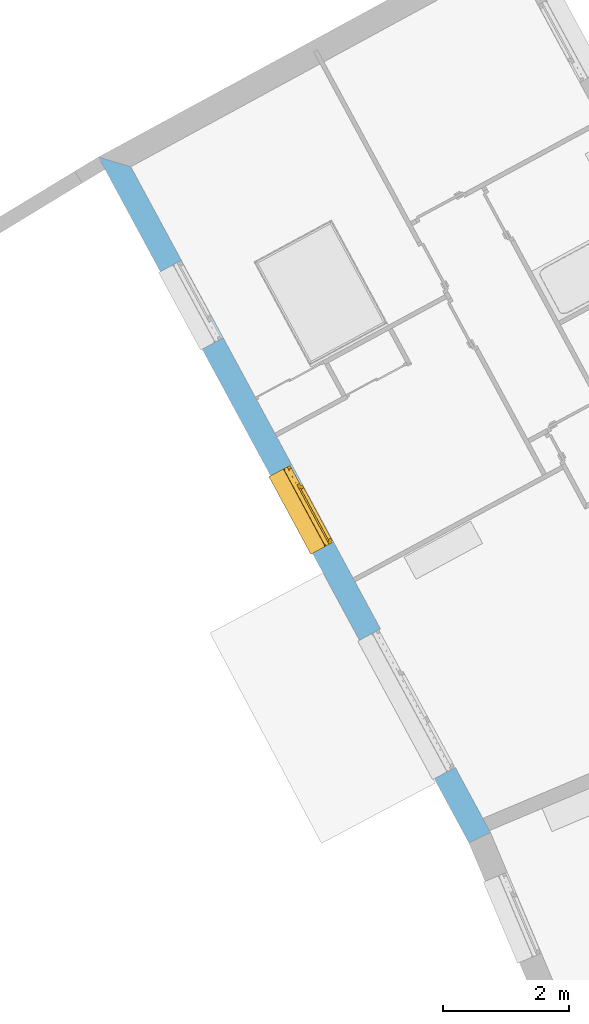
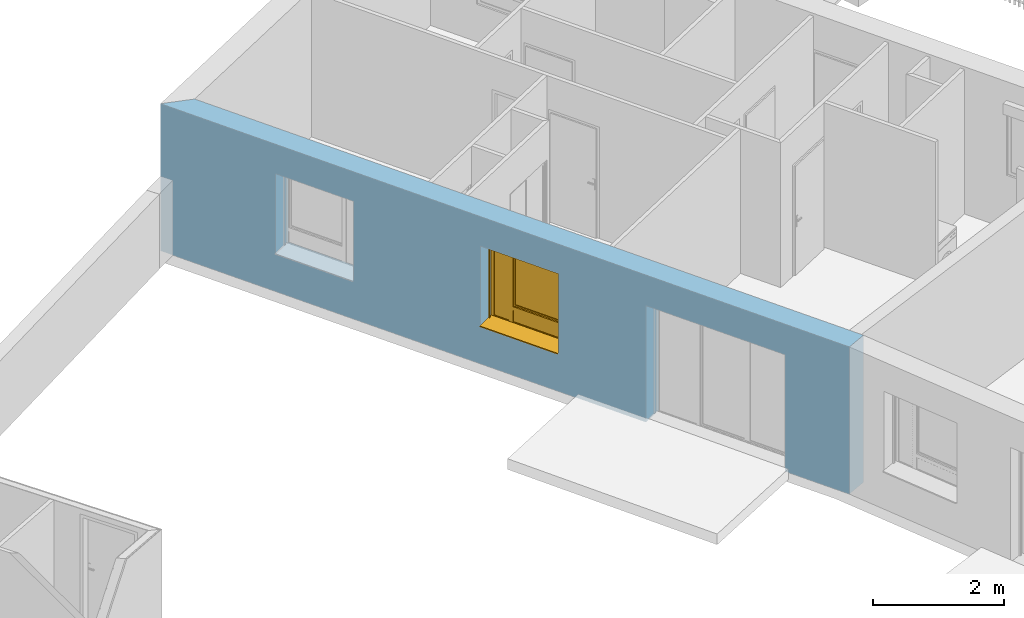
# One storey, part 61 of 195: 1 window, 3 openings, plus 1 element that does not belong to this part.
"""IFC2X3 building model written with IfcOpenShell, lengths in metres."""

from ifc_helpers import new_model, entity, si_unit, converted_unit, derived_unit, money_unit, direction, frame, origin_with_axes, place, context, subcontext, project, spatial, polyline, outline, extrude, open_shell, faceted_brep, surface_model, source, transform, mapped, material, layer, layer_set, layer_usage, type_object, element, fill, save


model = new_model("IFC2X3")

# Units and contexts
model_context = context("Model", 3, precision=1e-05, world=origin_with_axes(), true_north=direction((0.0, 1.0)))
body_context = subcontext(model_context, "Body", "Model", "MODEL_VIEW")
ifc_project = project(units=[si_unit("LENGTHUNIT", "METRE"), si_unit("AREAUNIT", "SQUARE_METRE"), si_unit("VOLUMEUNIT", "CUBIC_METRE"), converted_unit("PLANEANGLEUNIT", "DEGREE", entity("IfcPlaneAngleMeasure", 0.0174532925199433), si_unit("PLANEANGLEUNIT", "RADIAN"), dimensions=[0, 0, 0, 0, 0, 0, 0]), money_unit("CHF"), converted_unit("TIMEUNIT", "Year", entity("IfcTimeMeasure", 31557600.0), si_unit("TIMEUNIT", "SECOND"), dimensions=[0, 0, 1, 0, 0, 0, 0]), si_unit("MASSUNIT", "GRAM", prefix="KILO"), si_unit("THERMODYNAMICTEMPERATUREUNIT", "DEGREE_CELSIUS"), si_unit("LUMINOUSINTENSITYUNIT", "LUMEN"), si_unit("ENERGYUNIT", "JOULE", prefix="MEGA"), derived_unit("THERMALCONDUCTANCEUNIT", [(si_unit("POWERUNIT", "WATT"), 1), (si_unit("LENGTHUNIT", "METRE"), -1), (si_unit("THERMODYNAMICTEMPERATUREUNIT", "KELVIN"), -1)]), derived_unit("SPECIFICHEATCAPACITYUNIT", [(si_unit("ENERGYUNIT", "JOULE"), 1), (si_unit("MASSUNIT", "GRAM", prefix="KILO"), -1), (si_unit("THERMODYNAMICTEMPERATUREUNIT", "KELVIN"), -1)]), derived_unit("MASSDENSITYUNIT", [(si_unit("MASSUNIT", "GRAM", prefix="KILO"), 1), (si_unit("VOLUMEUNIT", "CUBIC_METRE"), -1)])], contexts=[model_context])

# Site, building, storey
site_placement = place(None, origin_with_axes())
site = spatial("IfcSite", under=ifc_project, at=site_placement, Name="Site", CompositionType="ELEMENT")
building_placement = place(site_placement, origin_with_axes())
building = spatial("IfcBuilding", under=site, at=building_placement, Name="Bâtiment", CompositionType="ELEMENT")
storey_placement = place(building_placement, origin_with_axes())
storey = spatial("IfcBuildingStorey", under=building, at=storey_placement, Name="rdc", CompositionType="ELEMENT", Elevation=0.0)

# Wall, openings, window
ifc_material_1 = material(Name="Parpaing 312445824")
ifc_layer_1 = layer(ifc_material_1, 0.22, ventilated="UNKNOWN")
ifc_material_2 = material(Name="Isolant styromousse 301821074")
ifc_layer_2 = layer(ifc_material_2, 0.16, ventilated="UNKNOWN")
ifc_layer_set = layer_set([ifc_layer_1, ifc_layer_2], Name="isol int 22+16 0836643197")
ifc_layer_usage = layer_usage(ifc_layer_set, "AXIS2", "POSITIVE", 0.0)
wall_type = type_object("IfcWallType", Name="isol int 22+16 0836643197 380", PredefinedType="NOTDEFINED")
wall_placement = place(storey_placement, frame((9554.54696705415, -1027.671586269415, 57.7), z_axis=(0.0, 0.0, 1.0), x_axis=(0.4753186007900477, -0.8798137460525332, 0.0)))
wall = element("IfcWallStandardCase", 1, at=wall_placement, inside=storey, type_object=wall_type, material=ifc_layer_usage, Name="Mur-113", context=body_context, shape_type="SweptSolid", body=[
    extrude(outline(polyline([(0.0, 0.0), (12.38026928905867, 0.0), (12.39857098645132, 0.3799999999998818), (0.3790263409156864, 0.3799999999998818), (0.0, 0.0)])), origin_with_axes(), (0.0, 0.0, 1.0), 2.75),
])
opening_1_placement = place(wall_placement, frame((2.767904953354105, 0.0, 0.7000000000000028), z_axis=(0.0, 0.0, 1.0), x_axis=(1.0, 0.0, 0.0)))
element("IfcOpeningElement", 2, at=opening_1_placement, cuts=wall, Name="Fen-045", context=body_context, shape_type="Brep", body=[
    faceted_brep([(-0.7000000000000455, 0.4800000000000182, 1.5), (0.6999999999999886, 0.4800000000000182, 1.5), (0.6999999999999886, 5.558327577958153, 1.5), (-0.7000000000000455, 5.558327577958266, 1.5), (-0.7000000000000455, 0.4800000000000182, 1.700000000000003), (0.6999999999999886, 0.4800000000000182, 1.700000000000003), (0.6999999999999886, 0.2999999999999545, 1.5), (0.6999999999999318, 0.2999999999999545, 0.0), (0.6999999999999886, 5.558327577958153, 0.0), (-0.7000000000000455, 5.558327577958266, 0.0), (-0.7000000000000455, 0.2999999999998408, 1.5), (-0.7000000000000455, 0.2999999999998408, 0.0), (-0.7000000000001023, 0.2200000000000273, 1.5), (-0.7000000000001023, 0.2200000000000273, 1.700000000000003), (0.6999999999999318, 0.2200000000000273, 1.700000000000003), (0.6999999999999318, 0.2200000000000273, 1.5), (0.6999999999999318, -5.178327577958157, 1.5), (0.6999999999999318, -5.178327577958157, 0.0), (-0.7000000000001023, -5.178327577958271, 0.0), (-0.7000000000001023, -5.178327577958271, 1.5)], [[[0, 1, 2, 3]], [[1, 0, 4, 5]], [[1, 6, 7, 8, 2]], [[2, 8, 9, 3]], [[10, 0, 3, 9, 11]], [[0, 10, 12, 13, 4]], [[14, 5, 4, 13]], [[6, 1, 5, 14, 15]], [[6, 15, 16, 17, 7]], [[7, 11, 9, 8]], [[12, 10, 11, 18, 19]], [[12, 15, 14, 13]], [[15, 12, 19, 16]], [[19, 18, 17, 16]], [[11, 7, 17, 18]]]),
])
opening_2_placement = place(wall_placement, frame((9.97329666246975, 0.0, 0.0), z_axis=(0.0, 0.0, 1.0), x_axis=(1.0, 0.0, 0.0)))
element("IfcOpeningElement", 3, at=opening_2_placement, cuts=wall, Name="Fen-045", context=body_context, shape_type="Brep", body=[
    faceted_brep([(-1.25, 0.4800000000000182, 2.18), (1.25, 0.4800000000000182, 2.18), (1.25, 5.558327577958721, 2.18), (-1.250000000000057, 5.558327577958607, 2.18), (-1.25, 0.4800000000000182, 2.380000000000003), (1.25, 0.4800000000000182, 2.380000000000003), (1.25, 0.3000000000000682, 2.18), (1.25, 0.3000000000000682, 0.0), (1.25, 5.558327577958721, 0.0), (-1.250000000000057, 5.558327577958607, 0.0), (-1.250000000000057, 0.2999999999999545, 2.18), (-1.250000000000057, 0.2999999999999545, 0.0), (-1.250000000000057, 0.2199999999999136, 2.18), (-1.250000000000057, 0.2199999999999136, 2.380000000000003), (1.25, 0.2200000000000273, 2.380000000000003), (1.25, 0.2200000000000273, 2.18), (1.25, -5.17832757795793, 2.18), (1.25, -5.17832757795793, 0.0), (-1.25, -5.17832757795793, 0.0), (-1.25, -5.17832757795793, 2.18)], [[[0, 1, 2, 3]], [[1, 0, 4, 5]], [[1, 6, 7, 8, 2]], [[2, 8, 9, 3]], [[10, 0, 3, 9, 11]], [[0, 10, 12, 13, 4]], [[4, 13, 14, 5]], [[6, 1, 5, 14, 15]], [[6, 15, 16, 17, 7]], [[7, 11, 9, 8]], [[12, 10, 11, 18, 19]], [[12, 15, 14, 13]], [[15, 12, 19, 16]], [[19, 18, 17, 16]], [[11, 7, 17, 18]]]),
])
opening_3_placement = place(wall_placement, frame((6.454402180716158, 0.0, 0.7000000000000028), z_axis=(0.0, 0.0, 1.0), x_axis=(1.0, 0.0, 0.0)))
opening_3 = element("IfcOpeningElement", 4, at=opening_3_placement, cuts=wall, Name="Fen-045", context=body_context, shape_type="Brep", body=[
    faceted_brep([(-0.7000000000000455, 0.4800000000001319, 1.5), (0.6999999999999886, 0.4800000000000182, 1.5), (0.6999999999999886, 5.55832757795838, 1.5), (-0.7000000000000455, 5.55832757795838, 1.5), (-0.7000000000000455, 0.4800000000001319, 1.700000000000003), (0.6999999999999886, 0.4800000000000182, 1.700000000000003), (0.6999999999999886, 0.2999999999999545, 1.5), (0.6999999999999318, 0.2999999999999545, 0.0), (0.6999999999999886, 5.55832757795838, 0.0), (-0.7000000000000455, 5.55832757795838, 0.0), (-0.7000000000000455, 0.2999999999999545, 1.5), (-0.7000000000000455, 0.2999999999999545, 0.0), (-0.7000000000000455, 0.2200000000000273, 1.5), (-0.7000000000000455, 0.2200000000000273, 1.700000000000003), (0.6999999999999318, 0.2200000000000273, 1.700000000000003), (0.6999999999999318, 0.2200000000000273, 1.5), (0.6999999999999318, -5.178327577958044, 1.5), (0.6999999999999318, -5.178327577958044, 0.0), (-0.7000000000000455, -5.178327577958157, 0.0), (-0.7000000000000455, -5.178327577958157, 1.5)], [[[0, 1, 2, 3]], [[1, 0, 4, 5]], [[1, 6, 7, 8, 2]], [[2, 8, 9, 3]], [[10, 0, 3, 9, 11]], [[0, 10, 12, 13, 4]], [[4, 13, 14, 5]], [[6, 1, 5, 14, 15]], [[6, 15, 16, 17, 7]], [[7, 11, 9, 8]], [[12, 10, 11, 18, 19]], [[12, 15, 14, 13]], [[15, 12, 19, 16]], [[19, 18, 17, 16]], [[11, 7, 17, 18]]]),
])
window_style = type_object("IfcWindowStyle", Name="Fenêtre variable 27", ConstructionType="NOTDEFINED", OperationType="TRIPLE_PANEL_LEFT", ParameterTakesPrecedence=False, Sizeable=False)
shared_shape = source(origin_with_axes(), body_context, "Body", "SurfaceModel", [
    surface_model("IfcShellBasedSurfaceModel", [(0.7, -0.05100000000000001, 0.05), (-0.7, -0.05100000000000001, 0.05000000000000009), (-0.7, -0.05100000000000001, 0.04000000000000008), (0.7, -0.05100000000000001, 0.04), (-0.7, -0.3799999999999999, 0.02900000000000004), (0.7, -0.3799999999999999, 0.02899999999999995), (-0.7, -0.3799999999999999, 0.00900000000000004), (0.7, -0.3799999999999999, 0.008999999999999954), (-0.7, -0.3699999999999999, 0.01900000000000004), (0.7, -0.3699999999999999, 0.01899999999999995)], [open_shell([[[0, 1, 2, 3]], [[3, 2, 4, 5]], [[5, 4, 6, 7]], [[7, 6, 8, 9]]])]),
    faceted_brep([(0.7, -0.13, 1.7), (0.7, 0.13, 1.7), (0.697, 0.13, 1.7), (0.697, -0.13, 1.7), (0.7, -0.13, 1.5), (0.7, 0.13, 1.5), (0.697, 0.13, 1.5), (0.697, -0.13, 1.5)], [[[0, 1, 2, 3]], [[0, 4, 5, 1]], [[1, 5, 6, 2]], [[3, 2, 6, 7]], [[4, 0, 3, 7]], [[5, 4, 7, 6]]]),
    faceted_brep([(-0.6970000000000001, -0.1299999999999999, 1.7), (-0.6970000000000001, 0.1300000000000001, 1.7), (-0.7000000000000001, 0.1300000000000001, 1.7), (-0.7000000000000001, -0.1299999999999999, 1.7), (-0.6970000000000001, -0.1299999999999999, 1.5), (-0.6970000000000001, 0.1300000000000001, 1.5), (-0.7000000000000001, 0.1300000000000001, 1.5), (-0.7000000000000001, -0.1299999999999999, 1.5)], [[[0, 1, 2, 3]], [[0, 4, 5, 1]], [[1, 5, 6, 2]], [[3, 2, 6, 7]], [[4, 0, 3, 7]], [[5, 4, 7, 6]]]),
    faceted_brep([(0.697, -0.13, 1.5), (0.697, -0.13, 1.7), (-0.697, -0.1299999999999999, 1.7), (-0.697, -0.1299999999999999, 1.5), (0.697, -0.127, 1.5), (0.697, -0.127, 1.697), (0.697, 0.127, 1.697), (0.697, 0.127, 1.503), (0.697, -0.108, 1.503), (0.697, -0.108, 1.5), (0.697, 0.13, 1.5), (0.697, 0.13, 1.7), (-0.697, 0.1300000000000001, 1.7), (-0.697, 0.1300000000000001, 1.5), (-0.697, -0.1079999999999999, 1.5), (-0.697, -0.1079999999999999, 1.503), (-0.697, 0.1270000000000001, 1.503), (-0.697, 0.1270000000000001, 1.697), (-0.697, -0.1269999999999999, 1.697), (-0.697, -0.1269999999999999, 1.5)], [[[0, 1, 2, 3]], [[0, 4, 5, 6, 7, 8, 9, 10, 11, 1]], [[1, 11, 12, 2]], [[3, 2, 12, 13, 14, 15, 16, 17, 18, 19]], [[4, 0, 3, 19]], [[5, 4, 19, 18]], [[6, 5, 18, 17]], [[7, 6, 17, 16]], [[8, 7, 16, 15]], [[9, 8, 15, 14]], [[10, 9, 14, 13]], [[11, 10, 13, 12]]]),
    faceted_brep([(0.694, -0.08075423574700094, 1.585760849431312), (0.694, -0.07705479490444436, 1.571954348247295), (0.694, -0.07101408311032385, 1.559), (0.694, -0.06281564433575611, 1.547291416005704), (0.694, -0.05270858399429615, 1.537184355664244), (0.694, -0.04099999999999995, 1.528985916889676), (0.694, -0.02804565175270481, 1.522945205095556), (0.694, -0.01423915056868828, 1.519245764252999), (0.694, 0.0, 1.518), (0.694, 0.01423915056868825, 1.519245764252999), (0.694, 0.02804565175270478, 1.522945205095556), (0.694, 0.04099999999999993, 1.528985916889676), (0.694, 0.05270858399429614, 1.537184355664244), (0.694, 0.06281564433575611, 1.547291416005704), (0.694, 0.07101408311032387, 1.559), (0.694, 0.07705479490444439, 1.571954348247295), (0.694, 0.08075423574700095, 1.585760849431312), (0.694, 0.0819999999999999, 1.6), (0.694, 0.08075423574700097, 1.614239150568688), (0.694, 0.0770547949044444, 1.628045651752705), (0.694, 0.07101408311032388, 1.641), (0.694, 0.06281564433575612, 1.652708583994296), (0.694, 0.05270858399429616, 1.662815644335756), (0.694, 0.04099999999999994, 1.671014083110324), (0.694, 0.02804565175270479, 1.677054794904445), (0.694, 0.01423915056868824, 1.680754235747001), (0.694, 0.0, 1.682), (0.694, -0.01423915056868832, 1.680754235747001), (0.694, -0.02804565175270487, 1.677054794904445), (0.694, -0.04100000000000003, 1.671014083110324), (0.694, -0.05270858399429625, 1.662815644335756), (0.694, -0.06281564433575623, 1.652708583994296), (0.694, -0.07101408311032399, 1.641), (0.694, -0.07705479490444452, 1.628045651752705), (0.694, -0.0807542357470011, 1.614239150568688), (0.694, -0.08200000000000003, 1.6), (-0.694, -0.08075423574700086, 1.585760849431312), (-0.694, -0.07705479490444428, 1.571954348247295), (-0.694, -0.07101408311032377, 1.559), (-0.694, -0.06281564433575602, 1.547291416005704), (-0.694, -0.05270858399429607, 1.537184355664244), (-0.694, -0.04099999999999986, 1.528985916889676), (-0.694, -0.02804565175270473, 1.522945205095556), (-0.694, -0.0142391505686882, 1.519245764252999), (-0.694, 0.0, 1.518), (-0.694, 0.01423915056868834, 1.519245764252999), (-0.694, 0.02804565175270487, 1.522945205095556), (-0.694, 0.04100000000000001, 1.528985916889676), (-0.694, 0.05270858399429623, 1.537184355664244), (-0.694, 0.06281564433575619, 1.547291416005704), (-0.694, 0.07101408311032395, 1.559), (-0.694, 0.07705479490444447, 1.571954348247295), (-0.694, 0.08075423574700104, 1.585760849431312), (-0.694, 0.08199999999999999, 1.6), (-0.694, 0.08075423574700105, 1.614239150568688), (-0.694, 0.07705479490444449, 1.628045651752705), (-0.694, 0.07101408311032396, 1.641), (-0.694, 0.0628156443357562, 1.652708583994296), (-0.694, 0.05270858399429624, 1.662815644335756), (-0.694, 0.04100000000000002, 1.671014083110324), (-0.694, 0.02804565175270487, 1.677054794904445), (-0.694, 0.01423915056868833, 1.680754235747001), (-0.694, 0.0, 1.682), (-0.694, -0.01423915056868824, 1.680754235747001), (-0.694, -0.02804565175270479, 1.677054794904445), (-0.694, -0.04099999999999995, 1.671014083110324), (-0.694, -0.05270858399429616, 1.662815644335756), (-0.694, -0.06281564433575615, 1.652708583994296), (-0.694, -0.07101408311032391, 1.641), (-0.694, -0.07705479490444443, 1.628045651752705), (-0.694, -0.08075423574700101, 1.614239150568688), (-0.694, -0.08199999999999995, 1.6)], [[[0, 1, 2, 3, 4, 5, 6, 7, 8, 9, 10, 11, 12, 13, 14, 15, 16, 17, 18, 19, 20, 21, 22, 23, 24, 25, 26, 27, 28, 29, 30, 31, 32, 33, 34, 35]], [[1, 0, 36, 37]], [[2, 1, 37, 38]], [[3, 2, 38, 39]], [[4, 3, 39, 40]], [[5, 4, 40, 41]], [[6, 5, 41, 42]], [[7, 6, 42, 43]], [[8, 7, 43, 44]], [[9, 8, 44, 45]], [[10, 9, 45, 46]], [[11, 10, 46, 47]], [[12, 11, 47, 48]], [[13, 12, 48, 49]], [[14, 13, 49, 50]], [[15, 14, 50, 51]], [[16, 15, 51, 52]], [[17, 16, 52, 53]], [[18, 17, 53, 54]], [[19, 18, 54, 55]], [[20, 19, 55, 56]], [[21, 20, 56, 57]], [[22, 21, 57, 58]], [[23, 22, 58, 59]], [[24, 23, 59, 60]], [[25, 24, 60, 61]], [[26, 25, 61, 62]], [[27, 26, 62, 63]], [[28, 27, 63, 64]], [[29, 28, 64, 65]], [[30, 29, 65, 66]], [[31, 30, 66, 67]], [[32, 31, 67, 68]], [[33, 32, 68, 69]], [[34, 33, 69, 70]], [[35, 34, 70, 71]], [[0, 35, 71, 36]], [[36, 71, 70, 69, 68, 67, 66, 65, 64, 63, 62, 61, 60, 59, 58, 57, 56, 55, 54, 53, 52, 51, 50, 49, 48, 47, 46, 45, 44, 43, 42, 41, 40, 39, 38, 37]]]),
    faceted_brep([(-0.7, -0.105, 0.03), (-0.7, -0.13, 0.03), (-0.7, -0.1299999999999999, 1.5), (-0.7, -0.1049999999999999, 1.5), (-0.6749999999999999, -0.105, 0.03), (-0.6749999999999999, -0.108, 0.03), (-0.697, -0.108, 0.03), (-0.697, -0.127, 0.03), (-0.6749999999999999, -0.127, 0.03), (-0.6749999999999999, -0.13, 0.03), (-0.6749999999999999, -0.1299999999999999, 1.5), (-0.6749999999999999, -0.1269999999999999, 1.5), (-0.697, -0.1269999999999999, 1.5), (-0.697, -0.1079999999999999, 1.5), (-0.6749999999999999, -0.1079999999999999, 1.5), (-0.6749999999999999, -0.1049999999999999, 1.5)], [[[0, 1, 2, 3]], [[0, 4, 5, 6, 7, 8, 9, 1]], [[1, 9, 10, 2]], [[3, 2, 10, 11, 12, 13, 14, 15]], [[4, 0, 3, 15]], [[5, 4, 15, 14]], [[6, 5, 14, 13]], [[7, 6, 13, 12]], [[8, 7, 12, 11]], [[9, 8, 11, 10]]]),
    faceted_brep([(0.7, -0.105, 0.03), (0.7, -0.1049999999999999, 1.5), (0.7, -0.1299999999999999, 1.5), (0.7, -0.13, 0.03), (0.6749999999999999, -0.105, 0.03), (0.6749999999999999, -0.1049999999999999, 1.5), (0.6749999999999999, -0.1079999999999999, 1.5), (0.697, -0.1079999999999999, 1.5), (0.697, -0.1269999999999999, 1.5), (0.6749999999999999, -0.1269999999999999, 1.5), (0.6749999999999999, -0.1299999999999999, 1.5), (0.6749999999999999, -0.13, 0.03), (0.6749999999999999, -0.127, 0.03), (0.697, -0.127, 0.03), (0.697, -0.108, 0.03), (0.6749999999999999, -0.108, 0.03)], [[[0, 1, 2, 3]], [[4, 5, 1, 0]], [[1, 5, 6, 7, 8, 9, 10, 2]], [[3, 2, 10, 11]], [[0, 3, 11, 12, 13, 14, 15, 4]], [[15, 6, 5, 4]], [[14, 7, 6, 15]], [[13, 8, 7, 14]], [[12, 9, 8, 13]], [[11, 10, 9, 12]]]),
    surface_model("IfcShellBasedSurfaceModel", [(0.697, -0.115, 1.6), (-0.697, -0.1149999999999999, 1.6), (-0.697, -0.12, 1.6), (0.697, -0.12, 1.6), (0.697, -0.115, 1.6), (0.697, -0.12, 1.6), (-0.697, -0.1199999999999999, 1.6), (-0.697, -0.1149999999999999, 1.6)], [open_shell([[[0, 1, 2, 3]], [[4, 5, 6, 7]]])]),
    faceted_brep([(0.697, -0.115, 1.6), (0.697, -0.1166666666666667, 1.583333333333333), (-0.697, -0.1166666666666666, 1.583333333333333), (-0.697, -0.1149999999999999, 1.6), (0.697, -0.12, 1.6), (0.697, -0.1216666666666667, 1.583333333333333), (0.697, -0.1216666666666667, 1.566666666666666), (0.697, -0.12, 1.55), (0.697, -0.115, 1.55), (0.697, -0.1166666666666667, 1.566666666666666), (-0.697, -0.1166666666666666, 1.566666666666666), (-0.697, -0.1149999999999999, 1.55), (-0.697, -0.1199999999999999, 1.55), (-0.697, -0.1216666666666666, 1.566666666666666), (-0.697, -0.1216666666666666, 1.583333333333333), (-0.697, -0.1199999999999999, 1.6)], [[[0, 1, 2, 3]], [[0, 4, 5, 6, 7, 8, 9, 1]], [[1, 9, 10, 2]], [[3, 2, 10, 11, 12, 13, 14, 15]], [[4, 0, 3, 15]], [[5, 4, 15, 14]], [[6, 5, 14, 13]], [[7, 6, 13, 12]], [[8, 7, 12, 11]], [[9, 8, 11, 10]]]),
    faceted_brep([(0.697, -0.115, 1.55), (0.697, -0.1166666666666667, 1.533333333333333), (-0.697, -0.1166666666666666, 1.533333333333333), (-0.697, -0.1149999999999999, 1.55), (0.697, -0.12, 1.55), (0.697, -0.1216666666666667, 1.533333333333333), (0.697, -0.1216666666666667, 1.516666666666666), (0.697, -0.12, 1.5), (0.697, -0.115, 1.5), (0.697, -0.1166666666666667, 1.516666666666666), (-0.697, -0.1166666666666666, 1.516666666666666), (-0.697, -0.1149999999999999, 1.5), (-0.697, -0.1199999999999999, 1.5), (-0.697, -0.1216666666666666, 1.516666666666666), (-0.697, -0.1216666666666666, 1.533333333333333), (-0.697, -0.1199999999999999, 1.55)], [[[0, 1, 2, 3]], [[0, 4, 5, 6, 7, 8, 9, 1]], [[1, 9, 10, 2]], [[3, 2, 10, 11, 12, 13, 14, 15]], [[4, 0, 3, 15]], [[5, 4, 15, 14]], [[6, 5, 14, 13]], [[7, 6, 13, 12]], [[8, 7, 12, 11]], [[9, 8, 11, 10]]]),
    faceted_brep([(0.6749999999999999, 0.0, 1.45), (0.6749999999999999, -0.02500000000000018, 1.45), (0.6499999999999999, -0.02500000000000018, 1.45), (0.6499999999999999, -0.05000000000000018, 1.45), (0.7, -0.05000000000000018, 1.45), (0.7, 0.0, 1.45), (0.6749999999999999, 0.0, 0.3099999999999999), (0.6749999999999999, -0.02500000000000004, 0.3099999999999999), (0.6499999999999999, -0.02500000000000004, 0.335), (0.6499999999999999, -0.02500000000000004, 0.3099999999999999), (0.6499999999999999, -0.05000000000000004, 0.335), (0.6499999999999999, -0.05000000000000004, 0.265), (0.6499999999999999, -0.05000000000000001, 0.05000000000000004), (0.7, -0.05000000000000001, 0.05000000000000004), (0.7, 0.0, 0.05000000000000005), (0.6499999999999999, 0.0, 0.05000000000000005), (0.6499999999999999, 0.0, 0.265), (0.6499999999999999, 0.0, 0.3099999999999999)], [[[0, 1, 2, 3, 4, 5]], [[1, 0, 6, 7]], [[8, 2, 1, 7, 9]], [[2, 8, 10, 3]], [[10, 11, 12, 13, 4, 3]], [[5, 4, 13, 14]], [[6, 0, 5, 14, 15, 16, 17]], [[6, 17, 9, 7]], [[9, 17, 16, 11, 10, 8]], [[15, 12, 11, 16]], [[14, 13, 12, 15]]]),
    faceted_brep([(-0.3068894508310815, -0.02500000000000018, 1.45), (-0.3318894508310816, -0.02500000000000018, 1.45), (-0.3318894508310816, 0.0, 1.45), (-0.3768894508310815, 0.0, 1.45), (-0.3768894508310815, -0.05000000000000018, 1.45), (-0.3068894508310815, -0.05000000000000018, 1.45), (-0.3068894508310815, -0.02500000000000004, 0.335), (-0.3068894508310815, -0.02500000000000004, 0.3099999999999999), (-0.3318894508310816, -0.02500000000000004, 0.3099999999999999), (-0.3318894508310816, 0.0, 0.3099999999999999), (-0.3068894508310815, 0.0, 0.3099999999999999), (-0.3068894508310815, 0.0, 0.265), (-0.3068894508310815, 0.0, 0.05000000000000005), (-0.3768894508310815, 0.0, 0.05000000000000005), (-0.3768894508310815, -0.05000000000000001, 0.05000000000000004), (-0.3068894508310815, -0.05000000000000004, 0.265), (-0.3068894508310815, -0.05000000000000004, 0.335), (-0.3068894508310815, -0.05000000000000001, 0.05000000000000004)], [[[0, 1, 2, 3, 4, 5]], [[1, 0, 6, 7, 8]], [[9, 2, 1, 8]], [[9, 10, 11, 12, 13, 3, 2]], [[13, 14, 4, 3]], [[15, 16, 5, 4, 14, 17]], [[6, 0, 5, 16]], [[7, 6, 16, 15, 11, 10]], [[10, 9, 8, 7]], [[11, 15, 17, 12]], [[12, 17, 14, 13]]]),
    faceted_brep([(0.6499999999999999, -0.02500000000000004, 0.335), (-0.3068894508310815, -0.02500000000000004, 0.335), (-0.3068894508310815, -0.05000000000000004, 0.335), (0.6499999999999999, -0.05000000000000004, 0.335), (-0.3068894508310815, -0.02500000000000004, 0.3099999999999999), (0.6499999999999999, -0.02500000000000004, 0.3099999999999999), (-0.3068894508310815, 0.0, 0.3099999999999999), (-0.3068894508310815, 0.0, 0.265), (-0.3068894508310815, -0.05000000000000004, 0.265), (0.6499999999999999, -0.05000000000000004, 0.265), (0.6499999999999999, 0.0, 0.265), (0.6499999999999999, 0.0, 0.3099999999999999)], [[[0, 1, 2, 3]], [[4, 1, 0, 5]], [[4, 6, 7, 8, 2, 1]], [[2, 8, 9, 3]], [[5, 0, 3, 9, 10, 11]], [[11, 6, 4, 5]], [[6, 11, 10, 7]], [[10, 9, 8, 7]]]),
    faceted_brep([(0.6749999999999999, 0.0, 1.45), (0.6749999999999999, 0.0, 1.475), (-0.3318894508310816, 0.0, 1.475), (-0.3318894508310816, 0.0, 1.45), (-0.3768894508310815, 0.0, 1.45), (-0.6499999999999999, 0.0, 1.45), (-0.7, 0.0, 1.45), (-0.7, 0.0, 1.5), (0.7, 0.0, 1.5), (0.7, 0.0, 1.45), (0.6749999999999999, -0.02500000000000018, 1.45), (0.6749999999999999, -0.02500000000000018, 1.475), (-0.3318894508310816, -0.02500000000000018, 1.475), (-0.3318894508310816, -0.02500000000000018, 1.45), (-0.3068894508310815, -0.02500000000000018, 1.45), (-0.3068894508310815, -0.05000000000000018, 1.45), (-0.3768894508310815, -0.05000000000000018, 1.45), (-0.6499999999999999, -0.05000000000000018, 1.45), (-0.7, -0.05000000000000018, 1.45), (-0.7, -0.05000000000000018, 1.5), (0.7, -0.05000000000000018, 1.5), (0.7, -0.05000000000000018, 1.45), (0.6499999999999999, -0.05000000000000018, 1.45), (0.6499999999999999, -0.02500000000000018, 1.45)], [[[0, 1, 2, 3, 4, 5, 6, 7, 8, 9]], [[1, 0, 10, 11]], [[2, 1, 11, 12]], [[3, 2, 12, 13]], [[13, 14, 15, 16, 4, 3]], [[4, 16, 17, 5]], [[5, 17, 18, 6]], [[6, 18, 19, 7]], [[7, 19, 20, 8]], [[8, 20, 21, 9]], [[10, 0, 9, 21, 22, 23]], [[14, 13, 12, 11, 10, 23]], [[14, 23, 22, 15]], [[16, 15, 22, 21, 20, 19, 18, 17]]]),
    faceted_brep([(-0.6499999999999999, -0.05000000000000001, 0.05), (-0.7, -0.05000000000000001, 0.05), (-0.7, 0.0, 0.05000000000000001), (-0.6499999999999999, 0.0, 0.05000000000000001), (-0.6499999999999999, -0.05000000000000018, 1.45), (-0.7, -0.05000000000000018, 1.45), (-0.7, 0.0, 1.45), (-0.6499999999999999, 0.0, 1.45)], [[[0, 1, 2, 3]], [[0, 4, 5, 1]], [[1, 5, 6, 2]], [[3, 2, 6, 7]], [[4, 0, 3, 7]], [[5, 4, 7, 6]]]),
    faceted_brep([(0.6499999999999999, -0.05000000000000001, 0.05), (0.7, -0.05000000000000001, 0.05), (0.7, 0.0, 0.05000000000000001), (0.6499999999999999, 0.0, 0.05000000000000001), (-0.3068894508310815, -0.05000000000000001, 0.05), (-0.3768894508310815, -0.05000000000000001, 0.05), (-0.6499999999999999, -0.05000000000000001, 0.05), (-0.7, -0.05000000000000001, 0.05), (-0.7, -0.05, 0.0), (0.7, -0.05, 0.0), (0.7, 0.0, 0.0), (-0.7, 0.0, 0.0), (-0.7, 0.0, 0.05000000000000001), (-0.6499999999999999, 0.0, 0.05000000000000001), (-0.3768894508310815, 0.0, 0.05000000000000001), (-0.3068894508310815, 0.0, 0.05000000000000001)], [[[0, 1, 2, 3]], [[0, 4, 5, 6, 7, 8, 9, 1]], [[1, 9, 10, 2]], [[3, 2, 10, 11, 12, 13, 14, 15]], [[4, 0, 3, 15]], [[5, 4, 15, 14]], [[6, 5, 14, 13]], [[7, 6, 13, 12]], [[8, 7, 12, 11]], [[9, 8, 11, 10]]]),
    faceted_brep([(0.625, -0.02500000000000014, 1.425), (0.6749999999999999, -0.02500000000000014, 1.425), (0.6749999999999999, 0.02499999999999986, 1.425), (0.625, 0.02499999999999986, 1.425), (0.625, -0.02500000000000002, 0.3599999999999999), (0.6749999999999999, -0.02500000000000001, 0.3599999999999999), (0.6749999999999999, 0.02499999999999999, 0.3599999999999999), (0.625, 0.02499999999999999, 0.3599999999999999)], [[[0, 1, 2, 3]], [[0, 4, 5, 1]], [[1, 5, 6, 2]], [[3, 2, 6, 7]], [[4, 0, 3, 7]], [[5, 4, 7, 6]]]),
    faceted_brep([(-0.2818894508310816, -0.02500000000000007, 0.3599999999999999), (-0.3318894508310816, -0.02500000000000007, 0.3599999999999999), (-0.3318894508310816, 0.02499999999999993, 0.3599999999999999), (-0.2818894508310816, 0.02499999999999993, 0.3599999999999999), (-0.2818894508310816, -0.0250000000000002, 1.425), (-0.3318894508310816, -0.0250000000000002, 1.425), (-0.3318894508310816, 0.0249999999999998, 1.425), (-0.2818894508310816, 0.0249999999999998, 1.425)], [[[0, 1, 2, 3]], [[0, 4, 5, 1]], [[1, 5, 6, 2]], [[3, 2, 6, 7]], [[4, 0, 3, 7]], [[5, 4, 7, 6]]]),
    faceted_brep([(-0.3318894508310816, -0.02500000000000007, 0.3099999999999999), (-0.3318894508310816, -0.02500000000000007, 0.3599999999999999), (-0.3318894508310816, 0.02499999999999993, 0.3599999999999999), (-0.3318894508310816, 0.02499999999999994, 0.3099999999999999), (0.6749999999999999, -0.025, 0.3099999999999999), (0.6749999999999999, -0.02500000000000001, 0.3599999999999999), (0.625, -0.02500000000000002, 0.3599999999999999), (-0.2818894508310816, -0.02500000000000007, 0.3599999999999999), (-0.2818894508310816, 0.02499999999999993, 0.3599999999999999), (0.625, 0.02499999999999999, 0.3599999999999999), (0.6749999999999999, 0.02499999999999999, 0.3599999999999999), (0.6749999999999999, 0.02499999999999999, 0.3099999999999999)], [[[0, 1, 2, 3]], [[0, 4, 5, 6, 7, 1]], [[1, 7, 8, 2]], [[3, 2, 8, 9, 10, 11]], [[4, 0, 3, 11]], [[5, 4, 11, 10]], [[6, 5, 10, 9]], [[7, 6, 9, 8]]]),
    faceted_brep([(0.6749999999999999, -0.02500000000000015, 1.475), (0.6749999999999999, -0.02500000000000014, 1.425), (0.6749999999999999, 0.02499999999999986, 1.425), (0.6749999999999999, 0.02499999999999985, 1.475), (-0.3318894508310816, -0.02500000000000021, 1.475), (-0.3318894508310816, -0.0250000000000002, 1.425), (-0.2818894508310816, -0.0250000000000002, 1.425), (0.625, -0.02500000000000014, 1.425), (0.625, 0.02499999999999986, 1.425), (-0.2818894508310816, 0.0249999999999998, 1.425), (-0.3318894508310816, 0.0249999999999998, 1.425), (-0.3318894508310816, 0.02499999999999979, 1.475)], [[[0, 1, 2, 3]], [[0, 4, 5, 6, 7, 1]], [[1, 7, 8, 2]], [[3, 2, 8, 9, 10, 11]], [[4, 0, 3, 11]], [[5, 4, 11, 10]], [[6, 5, 10, 9]], [[7, 6, 9, 8]]]),
    surface_model("IfcShellBasedSurfaceModel", [(0.625, -0.01000000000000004, 0.3599999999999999), (0.625, -0.01000000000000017, 1.425), (-0.2818894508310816, -0.01000000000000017, 1.425), (-0.2818894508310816, -0.01000000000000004, 0.3599999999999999)], [open_shell([[[0, 1, 2, 3]]])]),
    surface_model("IfcShellBasedSurfaceModel", [(0.625, 0.009999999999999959, 0.3599999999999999), (-0.2818894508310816, 0.009999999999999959, 0.3599999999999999), (-0.2818894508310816, 0.00999999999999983, 1.425), (0.625, 0.00999999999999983, 1.425)], [open_shell([[[0, 1, 2, 3]]])]),
    surface_model("IfcShellBasedSurfaceModel", [(-0.3768894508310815, -0.035, 0.05), (-0.3768894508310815, -0.03500000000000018, 1.45), (-0.65, -0.03500000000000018, 1.45), (-0.65, -0.035, 0.05)], [open_shell([[[0, 1, 2, 3]]])]),
    surface_model("IfcShellBasedSurfaceModel", [(-0.3768894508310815, -0.015, 0.05), (-0.65, -0.015, 0.05), (-0.65, -0.01500000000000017, 1.45), (-0.3768894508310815, -0.01500000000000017, 1.45)], [open_shell([[[0, 1, 2, 3]]])]),
    surface_model("IfcShellBasedSurfaceModel", [(0.6499999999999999, -0.035, 0.05), (0.6499999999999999, -0.03500000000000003, 0.265), (-0.3068894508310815, -0.03500000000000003, 0.265), (-0.3068894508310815, -0.035, 0.05)], [open_shell([[[0, 1, 2, 3]]])]),
    surface_model("IfcShellBasedSurfaceModel", [(0.6499999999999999, -0.015, 0.05), (-0.3068894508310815, -0.015, 0.05), (-0.3068894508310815, -0.01500000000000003, 0.265), (0.6499999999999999, -0.01500000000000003, 0.265)], [open_shell([[[0, 1, 2, 3]]])]),
])
window_placement = place(opening_3_placement, frame((-0.6999999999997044, 0.0, 0.0), z_axis=(0.0, 0.0, 1.0), x_axis=(1.0, 0.0, 0.0)))
window = element("IfcWindow", 5, at=window_placement, inside=storey, type_object=window_style, Name="Fen-045", OverallHeight=1.5, OverallWidth=1.4, context=body_context, shape_type="MappedRepresentation", body=[
    mapped(shared_shape, transform((0.7000000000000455, 0.3499999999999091, 0.0))),
])
fill(opening_3, window)

save(model, "model.ifc")
